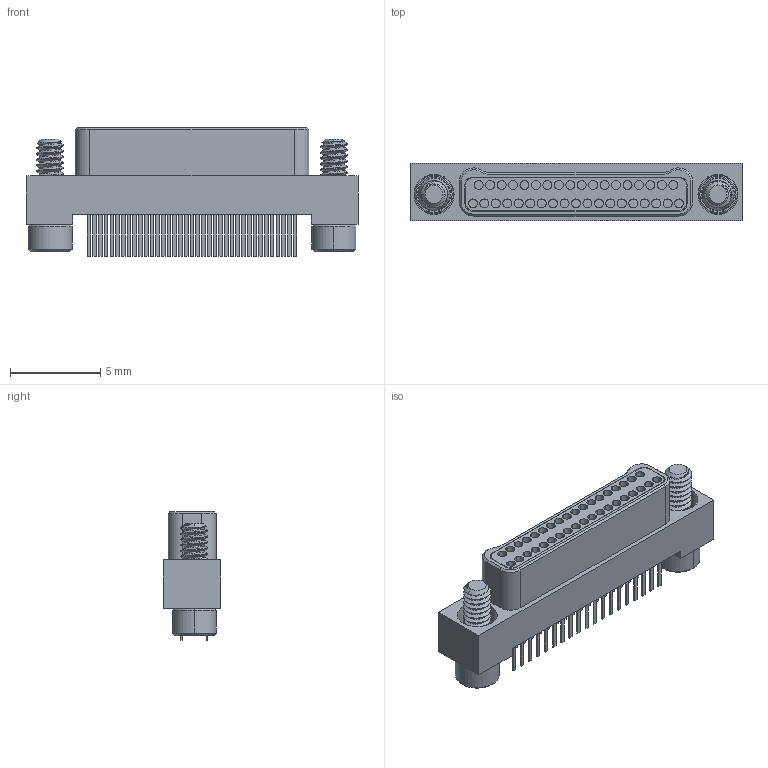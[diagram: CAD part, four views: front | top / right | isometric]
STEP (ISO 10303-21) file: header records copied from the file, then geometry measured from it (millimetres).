
FILE_DESCRIPTION (( 'STEP AP214' ), '1' );
FILE_NAME ('A28500-037 REV H.STEP', '2021-02-26T15:26:12', ( '' ), ( '' ), 'SwSTEP 2.0', 'SolidWorks 2019', '' );
FILE_SCHEMA (( 'AUTOMOTIVE_DESIGN' ));
Length unit declared in the file: inch
Products named in the file (1): A28500-037 REV H
Bounding box: 18.41 x 3.19 x 7.11 mm (x, y, z)
Volume: 194.2 mm3; surface area: 918.6 mm2
Topology: 1 solids, 1 shells, 761 faces, 1799 edges, 1184 vertices
Faces by surface type: plane 433, cylinder 220, bspline 54, cone 38, torus 16
Entity records: 37066 total; most frequent: CARTESIAN_POINT 9679, ORIENTED_EDGE 3598, DIRECTION 3489, EDGE_CURVE 1799, VERTEX_POINT 1184, AXIS2_PLACEMENT_3D 1172, LINE 1145, VECTOR 1145
